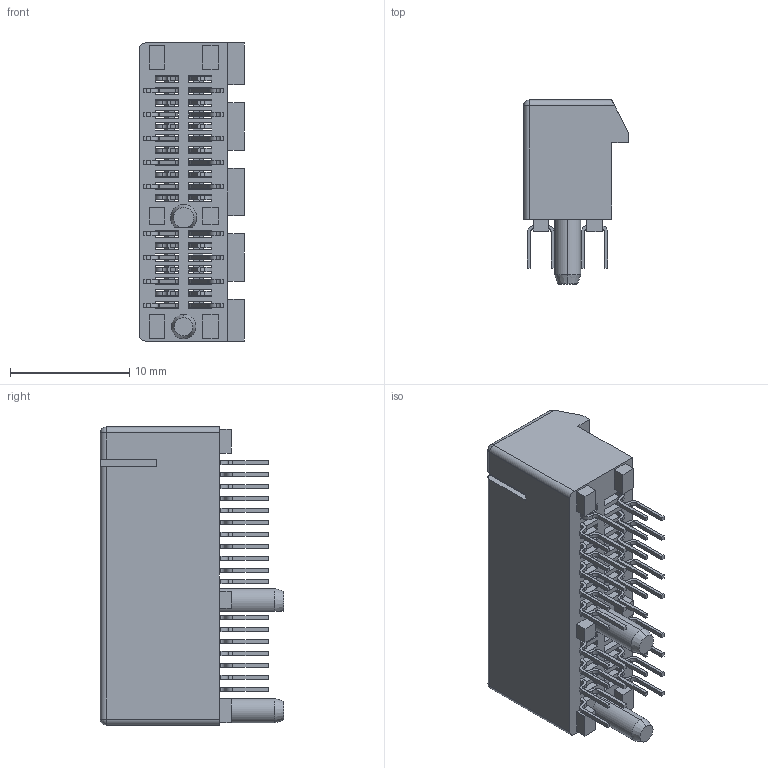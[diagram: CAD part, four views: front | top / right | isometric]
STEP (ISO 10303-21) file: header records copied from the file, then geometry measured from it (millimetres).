
FILE_DESCRIPTION (( 'STEP AP203' ), '1' );
FILE_NAME ('TE PCIe Express x1 (3.1mm Pins).STEP', '2015-01-12T00:39:14', ( '' ), ( '' ), 'SwSTEP 2.0', 'SolidWorks 2013', '' );
FILE_SCHEMA (( 'CONFIG_CONTROL_DESIGN' ));
Length unit declared in the file: millimetre
Products named in the file (4): PCIe Body_PCIe x1; Pins_Internal Pin (Long); Pins_External Pin (Long); TE PCIe Express x1 (3.1mm Pins)
Assembly tree (37 placements, depth 2):
  TE PCIe Express x1 (3.1mm Pins)
    PCIe Body_PCIe x1
    Pins_Internal Pin (Long)  x18
    Pins_External Pin (Long)  x18
Bounding box: 8.8 x 15.4 x 25 mm (x, y, z)
Volume: 1397 mm3; surface area: 3475.1 mm2
Topology: 37 solids, 37 shells, 1360 faces, 4019 edges, 2669 vertices
Faces by surface type: plane 912, cylinder 442, cone 4, sphere 2
Entity records: 18623 total; most frequent: CARTESIAN_POINT 3138, ORIENTED_EDGE 3138, DIRECTION 2667, EDGE_CURVE 1569, VECTOR 1495, LINE 1495, VERTEX_POINT 1037, AXIS2_PLACEMENT_3D 586
